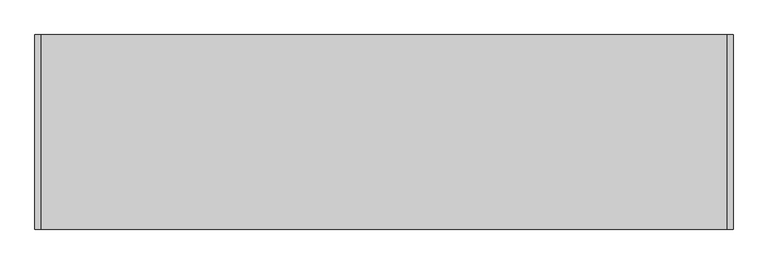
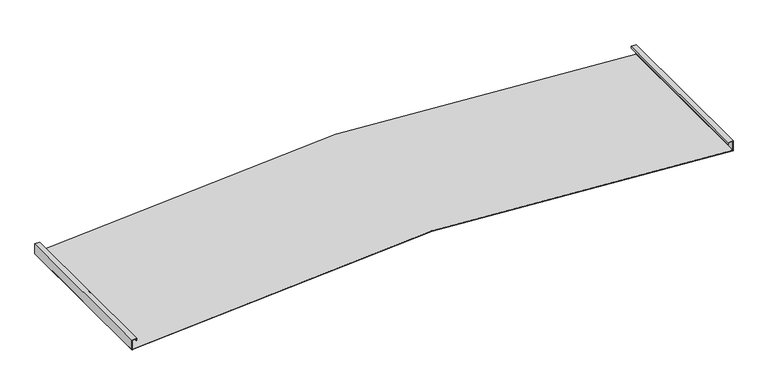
"""IFC4 building model written with IfcOpenShell, lengths in millimetres: proxy geometry, durlum_S7_DOMUS_panel : durlum_S7_DOMUS_panel_wall_width_cut."""

from ifc_helpers import new_model, si_unit, point, frame, frame_2d, origin, place, context, project, spatial, polyline, circle_curve, trimmed, segment, composite_curve, outline, extrude, source, transform, mapped, element, save


def generic_models_1caa2ed6(model_context):
    return source(origin(), model_context, "Body", "SweptSolid", [
        extrude(outline(composite_curve([segment(trimmed(circle_curve(frame_2d((-6660.1333333, 0.0)), 6721.1333333), [point((1.1434425, -895.0))], [point((1.1434425, 895.0))], True, "CARTESIAN"), True, "CONTINUOUS"), segment(polyline([(1.1434425, 895.0), (2.1524269, 895.0)]), True, "CONTINUOUS"), segment(trimmed(circle_curve(frame_2d((-6660.1333333, 0.0)), 6722.1333333), [point((2.1524269, 895.0))], [point((2.1524269, -895.0))], False, "CARTESIAN"), True, "CONTINUOUS"), segment(polyline([(2.1524269, -895.0), (1.1434425, -895.0)]), True, "CONTINUOUS")], self_intersect=False)), frame((0.0, -249.75, 0.0), z_axis=(0.0, 1.0, 0.0), x_axis=(0.0, 0.0, 1.0)), (0.0, 0.0, 1.0), 499.5),
        extrude(outline(polyline([(31.0, -896.0), (0.0, -896.0), (0.0, -895.0), (30.0, -895.0), (30.0, -882.0), (24.5, -882.0), (24.5, -881.0), (31.0, -881.0), (31.0, -896.0)])), frame((0.0, -249.75, 0.0), z_axis=(0.0, 1.0, 0.0), x_axis=(0.0, 0.0, 1.0)), (0.0, 0.0, 1.0), 499.5),
        extrude(outline(polyline([(31.0, 896.0), (31.0, 881.0), (24.5, 881.0), (24.5, 882.0), (30.0, 882.0), (30.0, 895.0), (0.0, 895.0), (0.0, 896.0), (31.0, 896.0)])), frame((0.0, -249.75, 0.0), z_axis=(0.0, 1.0, 0.0), x_axis=(0.0, 0.0, 1.0)), (0.0, 0.0, 1.0), 499.5),
        extrude(outline(composite_curve([segment(polyline([(1.0090075, -896.0), (0.0, -896.0)]), True, "CONTINUOUS"), segment(trimmed(circle_curve(frame_2d((-6660.1333333, 0.0)), 6720.1333333), [point((0.0, -896.0))], [point((0.0, 896.0))], True, "CARTESIAN"), True, "CONTINUOUS"), segment(polyline([(0.0, 896.0), (1.0090075, 896.0)]), True, "CONTINUOUS"), segment(trimmed(circle_curve(frame_2d((-6660.1333333, 0.0)), 6721.1333333), [point((1.0090075, 896.0))], [point((1.0090075, -896.0))], False, "CARTESIAN"), True, "CONTINUOUS")], self_intersect=False)), frame((0.0, -249.75, 0.0), z_axis=(0.0, 1.0, 0.0), x_axis=(0.0, 0.0, 1.0)), (0.0, 0.0, 1.0), 499.5),
    ])


if __name__ == "__main__":
    model = new_model("IFC4")
    model_context = context("Model", 3, world=origin())
    ifc_project = project(units=[si_unit("LENGTHUNIT", "METRE", prefix="MILLI")], contexts=[model_context])
    site = spatial("IfcSite", under=ifc_project)
    building = spatial("IfcBuilding", under=site)
    placement = place(None, origin())
    generic_models_shape = generic_models_1caa2ed6(model_context)
    element("IfcBuildingElementProxy", 1, Name="durlum_S7_DOMUS_panel : durlum_S7_DOMUS_panel_wall_width_cut", ObjectType="durlum_S7_DOMUS_panel : durlum_S7_DOMUS_panel_wall_width_cut", at=placement, inside=building, context=model_context, shape_type="MappedRepresentation", body=[
        mapped(generic_models_shape, transform((0.0, 0.0, 0.0), x_axis=(1.0, 0.0, 0.0), y_axis=(0.0, 1.0, 0.0), z_axis=(0.0, 0.0, 1.0))),
    ])
    save(model, "model.ifc")
